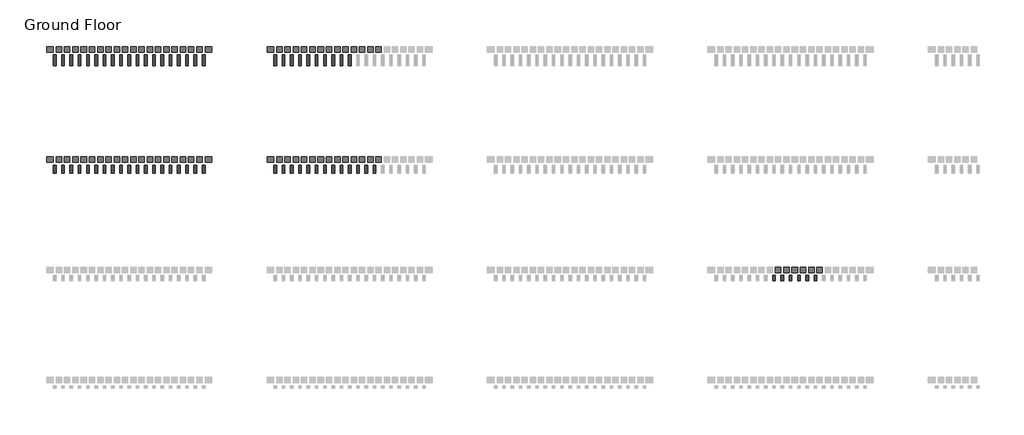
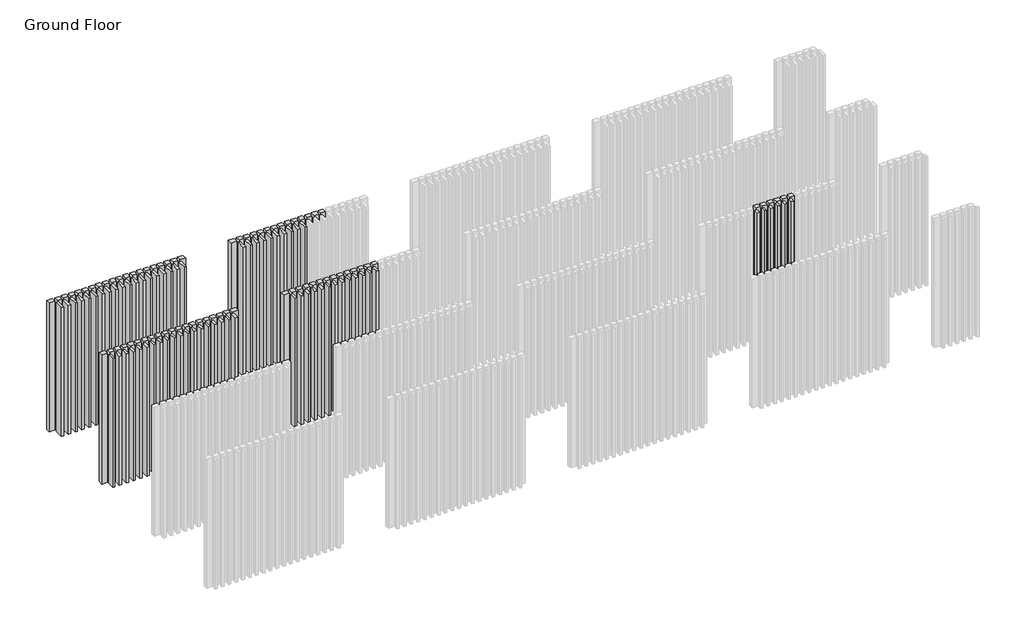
# One storey, part 15 of 350: 74 plates, 67 members.
"""IFC4 building model written with IfcOpenShell, lengths in millimetres."""

from ifc_helpers import new_model, si_unit, origin, place, context, project, spatial, transform, mapped, element, save
from components import rectangular_mullion_e9fc8109, rectangular_mullion_26362614, rectangular_mullion_afeb8ef8, empty_system_panel_empty_a8601f27, empty_system_panel_empty_23ba90fe, empty_system_panel_empty_02e968fa

model = new_model("IFC4")

# Units and contexts
model_context = context("Model", 3, world=origin())
ifc_project = project(units=[si_unit("LENGTHUNIT", "METRE", prefix="MILLI")], contexts=[model_context])

# Site, building, storey
site = spatial("IfcSite", under=ifc_project)
building = spatial("IfcBuilding", under=site)
storey = spatial("IfcBuildingStorey", under=building, Name="Ground Floor", Elevation=0.0)

# Members
placement = place(None, origin())
rectangular_mullion_shape = rectangular_mullion_e9fc8109(model_context)
element("IfcMember", 1, ObjectType="Rectangular Mullion : Batten_Aluminium_Modinex_AluBatten_50x100_SpottedGum", at=placement, inside=storey, context=model_context, shape_type="MappedRepresentation", body=[
    mapped(rectangular_mullion_shape, transform((15116.4361642, 22968.2978302, 0.0), x_axis=(1.0, 0.0, 0.0), y_axis=(0.0, -1.0, 0.0), z_axis=(0.0, 0.0, -1.0))),
])
element("IfcMember", 2, ObjectType="Rectangular Mullion : Batten_Aluminium_Modinex_AluBatten_50x100_SpottedGum", at=placement, inside=storey, context=model_context, shape_type="MappedRepresentation", body=[
    mapped(rectangular_mullion_shape, transform((15266.4361642, 22968.2978302, 0.0), x_axis=(1.0, 0.0, 0.0), y_axis=(0.0, -1.0, 0.0), z_axis=(0.0, 0.0, -1.0))),
])
element("IfcMember", 3, ObjectType="Rectangular Mullion : Batten_Aluminium_Modinex_AluBatten_50x100_SpottedGum", at=placement, inside=storey, context=model_context, shape_type="MappedRepresentation", body=[
    mapped(rectangular_mullion_shape, transform((15416.4361642, 22968.2978302, 0.0), x_axis=(1.0, 0.0, 0.0), y_axis=(0.0, -1.0, 0.0), z_axis=(0.0, 0.0, -1.0))),
])
element("IfcMember", 4, ObjectType="Rectangular Mullion : Batten_Aluminium_Modinex_AluBatten_50x100_SpottedGum", at=placement, inside=storey, context=model_context, shape_type="MappedRepresentation", body=[
    mapped(rectangular_mullion_shape, transform((15566.4361642, 22968.2978302, 0.0), x_axis=(1.0, 0.0, 0.0), y_axis=(0.0, -1.0, 0.0), z_axis=(0.0, 0.0, -1.0))),
])
element("IfcMember", 5, ObjectType="Rectangular Mullion : Batten_Aluminium_Modinex_AluBatten_50x100_SpottedGum", at=placement, inside=storey, context=model_context, shape_type="MappedRepresentation", body=[
    mapped(rectangular_mullion_shape, transform((15716.4361642, 22968.2978302, 0.0), x_axis=(1.0, 0.0, 0.0), y_axis=(0.0, -1.0, 0.0), z_axis=(0.0, 0.0, -1.0))),
])
element("IfcMember", 6, ObjectType="Rectangular Mullion : Batten_Aluminium_Modinex_AluBatten_50x100_SpottedGum", at=placement, inside=storey, context=model_context, shape_type="MappedRepresentation", body=[
    mapped(rectangular_mullion_shape, transform((15866.4361642, 22968.2978302, 0.0), x_axis=(1.0, 0.0, 0.0), y_axis=(0.0, -1.0, 0.0), z_axis=(0.0, 0.0, -1.0))),
])
rectangular_mullion_2_shape = rectangular_mullion_26362614(model_context)
element("IfcMember", 7, ObjectType="Rectangular Mullion : Batten_Aluminium_Modinex_AluBatten_50x150_AfricanEbony", at=placement, inside=storey, context=model_context, shape_type="MappedRepresentation", body=[
    mapped(rectangular_mullion_2_shape, transform((2066.4361642, 24968.2978302, 0.0), x_axis=(1.0, 0.0, 0.0), y_axis=(0.0, -1.0, 0.0), z_axis=(0.0, 0.0, -1.0))),
])
element("IfcMember", 8, ObjectType="Rectangular Mullion : Batten_Aluminium_Modinex_AluBatten_50x150_AfricanEbony", at=placement, inside=storey, context=model_context, shape_type="MappedRepresentation", body=[
    mapped(rectangular_mullion_2_shape, transform((2216.4361642, 24968.2978302, 0.0), x_axis=(1.0, 0.0, 0.0), y_axis=(0.0, -1.0, 0.0), z_axis=(0.0, 0.0, -1.0))),
])
element("IfcMember", 9, ObjectType="Rectangular Mullion : Batten_Aluminium_Modinex_AluBatten_50x150_AfricanEbony", at=placement, inside=storey, context=model_context, shape_type="MappedRepresentation", body=[
    mapped(rectangular_mullion_2_shape, transform((2366.4361642, 24968.2978302, 0.0), x_axis=(1.0, 0.0, 0.0), y_axis=(0.0, -1.0, 0.0), z_axis=(0.0, 0.0, -1.0))),
])
element("IfcMember", 10, ObjectType="Rectangular Mullion : Batten_Aluminium_Modinex_AluBatten_50x150_AfricanEbony", at=placement, inside=storey, context=model_context, shape_type="MappedRepresentation", body=[
    mapped(rectangular_mullion_2_shape, transform((2516.4361642, 24968.2978302, 0.0), x_axis=(1.0, 0.0, 0.0), y_axis=(0.0, -1.0, 0.0), z_axis=(0.0, 0.0, -1.0))),
])
element("IfcMember", 11, ObjectType="Rectangular Mullion : Batten_Aluminium_Modinex_AluBatten_50x150_AfricanEbony", at=placement, inside=storey, context=model_context, shape_type="MappedRepresentation", body=[
    mapped(rectangular_mullion_2_shape, transform((2666.4361642, 24968.2978302, 0.0), x_axis=(1.0, 0.0, 0.0), y_axis=(0.0, -1.0, 0.0), z_axis=(0.0, 0.0, -1.0))),
])
element("IfcMember", 12, ObjectType="Rectangular Mullion : Batten_Aluminium_Modinex_AluBatten_50x150_AfricanEbony", at=placement, inside=storey, context=model_context, shape_type="MappedRepresentation", body=[
    mapped(rectangular_mullion_2_shape, transform((2816.4361642, 24968.2978302, 0.0), x_axis=(1.0, 0.0, 0.0), y_axis=(0.0, -1.0, 0.0), z_axis=(0.0, 0.0, -1.0))),
])
element("IfcMember", 13, ObjectType="Rectangular Mullion : Batten_Aluminium_Modinex_AluBatten_50x150_AfricanEbony", at=placement, inside=storey, context=model_context, shape_type="MappedRepresentation", body=[
    mapped(rectangular_mullion_2_shape, transform((2966.4361642, 24968.2978302, 0.0), x_axis=(1.0, 0.0, 0.0), y_axis=(0.0, -1.0, 0.0), z_axis=(0.0, 0.0, -1.0))),
])
element("IfcMember", 14, ObjectType="Rectangular Mullion : Batten_Aluminium_Modinex_AluBatten_50x150_AfricanEbony", at=placement, inside=storey, context=model_context, shape_type="MappedRepresentation", body=[
    mapped(rectangular_mullion_2_shape, transform((3116.4361642, 24968.2978302, 0.0), x_axis=(1.0, 0.0, 0.0), y_axis=(0.0, -1.0, 0.0), z_axis=(0.0, 0.0, -1.0))),
])
element("IfcMember", 15, ObjectType="Rectangular Mullion : Batten_Aluminium_Modinex_AluBatten_50x150_AfricanEbony", at=placement, inside=storey, context=model_context, shape_type="MappedRepresentation", body=[
    mapped(rectangular_mullion_2_shape, transform((3266.4361642, 24968.2978302, 0.0), x_axis=(1.0, 0.0, 0.0), y_axis=(0.0, -1.0, 0.0), z_axis=(0.0, 0.0, -1.0))),
])
element("IfcMember", 16, ObjectType="Rectangular Mullion : Batten_Aluminium_Modinex_AluBatten_50x150_AfricanEbony", at=placement, inside=storey, context=model_context, shape_type="MappedRepresentation", body=[
    mapped(rectangular_mullion_2_shape, transform((3416.4361642, 24968.2978302, 0.0), x_axis=(1.0, 0.0, 0.0), y_axis=(0.0, -1.0, 0.0), z_axis=(0.0, 0.0, -1.0))),
])
element("IfcMember", 17, ObjectType="Rectangular Mullion : Batten_Aluminium_Modinex_AluBatten_50x150_AfricanEbony", at=placement, inside=storey, context=model_context, shape_type="MappedRepresentation", body=[
    mapped(rectangular_mullion_2_shape, transform((3566.4361642, 24968.2978302, 0.0), x_axis=(1.0, 0.0, 0.0), y_axis=(0.0, -1.0, 0.0), z_axis=(0.0, 0.0, -1.0))),
])
element("IfcMember", 18, ObjectType="Rectangular Mullion : Batten_Aluminium_Modinex_AluBatten_50x150_AfricanEbony", at=placement, inside=storey, context=model_context, shape_type="MappedRepresentation", body=[
    mapped(rectangular_mullion_2_shape, transform((3716.4361642, 24968.2978302, 0.0), x_axis=(1.0, 0.0, 0.0), y_axis=(0.0, -1.0, 0.0), z_axis=(0.0, 0.0, -1.0))),
])
element("IfcMember", 19, ObjectType="Rectangular Mullion : Batten_Aluminium_Modinex_AluBatten_50x150_AfricanEbony", at=placement, inside=storey, context=model_context, shape_type="MappedRepresentation", body=[
    mapped(rectangular_mullion_2_shape, transform((3866.4361642, 24968.2978302, 0.0), x_axis=(1.0, 0.0, 0.0), y_axis=(0.0, -1.0, 0.0), z_axis=(0.0, 0.0, -1.0))),
])
element("IfcMember", 20, ObjectType="Rectangular Mullion : Batten_Aluminium_Modinex_AluBatten_50x150_AfricanEbony", at=placement, inside=storey, context=model_context, shape_type="MappedRepresentation", body=[
    mapped(rectangular_mullion_2_shape, transform((4016.4361642, 24968.2978302, 0.0), x_axis=(1.0, 0.0, 0.0), y_axis=(0.0, -1.0, 0.0), z_axis=(0.0, 0.0, -1.0))),
])
element("IfcMember", 21, ObjectType="Rectangular Mullion : Batten_Aluminium_Modinex_AluBatten_50x150_AfricanEbony", at=placement, inside=storey, context=model_context, shape_type="MappedRepresentation", body=[
    mapped(rectangular_mullion_2_shape, transform((4166.4361642, 24968.2978302, 0.0), x_axis=(1.0, 0.0, 0.0), y_axis=(0.0, -1.0, 0.0), z_axis=(0.0, 0.0, -1.0))),
])
element("IfcMember", 22, ObjectType="Rectangular Mullion : Batten_Aluminium_Modinex_AluBatten_50x150_AfricanEbony", at=placement, inside=storey, context=model_context, shape_type="MappedRepresentation", body=[
    mapped(rectangular_mullion_2_shape, transform((4316.4361642, 24968.2978302, 0.0), x_axis=(1.0, 0.0, 0.0), y_axis=(0.0, -1.0, 0.0), z_axis=(0.0, 0.0, -1.0))),
])
element("IfcMember", 23, ObjectType="Rectangular Mullion : Batten_Aluminium_Modinex_AluBatten_50x150_AfricanEbony", at=placement, inside=storey, context=model_context, shape_type="MappedRepresentation", body=[
    mapped(rectangular_mullion_2_shape, transform((4466.4361642, 24968.2978302, 0.0), x_axis=(1.0, 0.0, 0.0), y_axis=(0.0, -1.0, 0.0), z_axis=(0.0, 0.0, -1.0))),
])
element("IfcMember", 24, ObjectType="Rectangular Mullion : Batten_Aluminium_Modinex_AluBatten_50x150_AfricanEbony", at=placement, inside=storey, context=model_context, shape_type="MappedRepresentation", body=[
    mapped(rectangular_mullion_2_shape, transform((4616.4361642, 24968.2978302, 0.0), x_axis=(1.0, 0.0, 0.0), y_axis=(0.0, -1.0, 0.0), z_axis=(0.0, 0.0, -1.0))),
])
element("IfcMember", 25, ObjectType="Rectangular Mullion : Batten_Aluminium_Modinex_AluBatten_50x150_AfricanEbony", at=placement, inside=storey, context=model_context, shape_type="MappedRepresentation", body=[
    mapped(rectangular_mullion_2_shape, transform((4766.4361642, 24968.2978302, 0.0), x_axis=(1.0, 0.0, 0.0), y_axis=(0.0, -1.0, 0.0), z_axis=(0.0, 0.0, -1.0))),
])
element("IfcMember", 26, ObjectType="Rectangular Mullion : Batten_Aluminium_Modinex_AluBatten_50x150_Cedar", at=placement, inside=storey, context=model_context, shape_type="MappedRepresentation", body=[
    mapped(rectangular_mullion_2_shape, transform((6066.4361642, 24968.2978302, 0.0), x_axis=(1.0, 0.0, 0.0), y_axis=(0.0, -1.0, 0.0), z_axis=(0.0, 0.0, -1.0))),
])
element("IfcMember", 27, ObjectType="Rectangular Mullion : Batten_Aluminium_Modinex_AluBatten_50x150_Cedar", at=placement, inside=storey, context=model_context, shape_type="MappedRepresentation", body=[
    mapped(rectangular_mullion_2_shape, transform((6216.4361642, 24968.2978302, 0.0), x_axis=(1.0, 0.0, 0.0), y_axis=(0.0, -1.0, 0.0), z_axis=(0.0, 0.0, -1.0))),
])
element("IfcMember", 28, ObjectType="Rectangular Mullion : Batten_Aluminium_Modinex_AluBatten_50x150_Cedar", at=placement, inside=storey, context=model_context, shape_type="MappedRepresentation", body=[
    mapped(rectangular_mullion_2_shape, transform((6366.4361642, 24968.2978302, 0.0), x_axis=(1.0, 0.0, 0.0), y_axis=(0.0, -1.0, 0.0), z_axis=(0.0, 0.0, -1.0))),
])
element("IfcMember", 29, ObjectType="Rectangular Mullion : Batten_Aluminium_Modinex_AluBatten_50x150_Cedar", at=placement, inside=storey, context=model_context, shape_type="MappedRepresentation", body=[
    mapped(rectangular_mullion_2_shape, transform((6516.4361642, 24968.2978302, 0.0), x_axis=(1.0, 0.0, 0.0), y_axis=(0.0, -1.0, 0.0), z_axis=(0.0, 0.0, -1.0))),
])
element("IfcMember", 30, ObjectType="Rectangular Mullion : Batten_Aluminium_Modinex_AluBatten_50x150_Cedar", at=placement, inside=storey, context=model_context, shape_type="MappedRepresentation", body=[
    mapped(rectangular_mullion_2_shape, transform((6666.4361642, 24968.2978302, 0.0), x_axis=(1.0, 0.0, 0.0), y_axis=(0.0, -1.0, 0.0), z_axis=(0.0, 0.0, -1.0))),
])
element("IfcMember", 31, ObjectType="Rectangular Mullion : Batten_Aluminium_Modinex_AluBatten_50x150_Cedar", at=placement, inside=storey, context=model_context, shape_type="MappedRepresentation", body=[
    mapped(rectangular_mullion_2_shape, transform((6816.4361642, 24968.2978302, 0.0), x_axis=(1.0, 0.0, 0.0), y_axis=(0.0, -1.0, 0.0), z_axis=(0.0, 0.0, -1.0))),
])
element("IfcMember", 32, ObjectType="Rectangular Mullion : Batten_Aluminium_Modinex_AluBatten_50x150_Cedar", at=placement, inside=storey, context=model_context, shape_type="MappedRepresentation", body=[
    mapped(rectangular_mullion_2_shape, transform((6966.4361642, 24968.2978302, 0.0), x_axis=(1.0, 0.0, 0.0), y_axis=(0.0, -1.0, 0.0), z_axis=(0.0, 0.0, -1.0))),
])
element("IfcMember", 33, ObjectType="Rectangular Mullion : Batten_Aluminium_Modinex_AluBatten_50x150_Cedar", at=placement, inside=storey, context=model_context, shape_type="MappedRepresentation", body=[
    mapped(rectangular_mullion_2_shape, transform((7116.4361642, 24968.2978302, 0.0), x_axis=(1.0, 0.0, 0.0), y_axis=(0.0, -1.0, 0.0), z_axis=(0.0, 0.0, -1.0))),
])
element("IfcMember", 34, ObjectType="Rectangular Mullion : Batten_Aluminium_Modinex_AluBatten_50x150_Cedar", at=placement, inside=storey, context=model_context, shape_type="MappedRepresentation", body=[
    mapped(rectangular_mullion_2_shape, transform((7266.4361642, 24968.2978302, 0.0), x_axis=(1.0, 0.0, 0.0), y_axis=(0.0, -1.0, 0.0), z_axis=(0.0, 0.0, -1.0))),
])
element("IfcMember", 35, ObjectType="Rectangular Mullion : Batten_Aluminium_Modinex_AluBatten_50x150_Cedar", at=placement, inside=storey, context=model_context, shape_type="MappedRepresentation", body=[
    mapped(rectangular_mullion_2_shape, transform((7416.4361642, 24968.2978302, 0.0), x_axis=(1.0, 0.0, 0.0), y_axis=(0.0, -1.0, 0.0), z_axis=(0.0, 0.0, -1.0))),
])
element("IfcMember", 36, ObjectType="Rectangular Mullion : Batten_Aluminium_Modinex_AluBatten_50x150_Cedar", at=placement, inside=storey, context=model_context, shape_type="MappedRepresentation", body=[
    mapped(rectangular_mullion_2_shape, transform((7566.4361642, 24968.2978302, 0.0), x_axis=(1.0, 0.0, 0.0), y_axis=(0.0, -1.0, 0.0), z_axis=(0.0, 0.0, -1.0))),
])
element("IfcMember", 37, ObjectType="Rectangular Mullion : Batten_Aluminium_Modinex_AluBatten_50x150_Cedar", at=placement, inside=storey, context=model_context, shape_type="MappedRepresentation", body=[
    mapped(rectangular_mullion_2_shape, transform((7716.4361642, 24968.2978302, 0.0), x_axis=(1.0, 0.0, 0.0), y_axis=(0.0, -1.0, 0.0), z_axis=(0.0, 0.0, -1.0))),
])
element("IfcMember", 38, ObjectType="Rectangular Mullion : Batten_Aluminium_Modinex_AluBatten_50x150_Cedar", at=placement, inside=storey, context=model_context, shape_type="MappedRepresentation", body=[
    mapped(rectangular_mullion_2_shape, transform((7866.4361642, 24968.2978302, 0.0), x_axis=(1.0, 0.0, 0.0), y_axis=(0.0, -1.0, 0.0), z_axis=(0.0, 0.0, -1.0))),
])
rectangular_mullion_3_shape = rectangular_mullion_afeb8ef8(model_context)
element("IfcMember", 39, ObjectType="Rectangular Mullion : Batten_Aluminium_Modinex_AluBatten_50x200_AfricanEbony", at=placement, inside=storey, context=model_context, shape_type="MappedRepresentation", body=[
    mapped(rectangular_mullion_3_shape, transform((2066.4361642, 26968.2978302, 0.0), x_axis=(1.0, 0.0, 0.0), y_axis=(0.0, -1.0, 0.0), z_axis=(0.0, 0.0, -1.0))),
])
element("IfcMember", 40, ObjectType="Rectangular Mullion : Batten_Aluminium_Modinex_AluBatten_50x200_AfricanEbony", at=placement, inside=storey, context=model_context, shape_type="MappedRepresentation", body=[
    mapped(rectangular_mullion_3_shape, transform((2216.4361642, 26968.2978302, 0.0), x_axis=(1.0, 0.0, 0.0), y_axis=(0.0, -1.0, 0.0), z_axis=(0.0, 0.0, -1.0))),
])
element("IfcMember", 41, ObjectType="Rectangular Mullion : Batten_Aluminium_Modinex_AluBatten_50x200_AfricanEbony", at=placement, inside=storey, context=model_context, shape_type="MappedRepresentation", body=[
    mapped(rectangular_mullion_3_shape, transform((2366.4361642, 26968.2978302, 0.0), x_axis=(1.0, 0.0, 0.0), y_axis=(0.0, -1.0, 0.0), z_axis=(0.0, 0.0, -1.0))),
])
element("IfcMember", 42, ObjectType="Rectangular Mullion : Batten_Aluminium_Modinex_AluBatten_50x200_AfricanEbony", at=placement, inside=storey, context=model_context, shape_type="MappedRepresentation", body=[
    mapped(rectangular_mullion_3_shape, transform((2516.4361642, 26968.2978302, 0.0), x_axis=(1.0, 0.0, 0.0), y_axis=(0.0, -1.0, 0.0), z_axis=(0.0, 0.0, -1.0))),
])
element("IfcMember", 43, ObjectType="Rectangular Mullion : Batten_Aluminium_Modinex_AluBatten_50x200_AfricanEbony", at=placement, inside=storey, context=model_context, shape_type="MappedRepresentation", body=[
    mapped(rectangular_mullion_3_shape, transform((2666.4361642, 26968.2978302, 0.0), x_axis=(1.0, 0.0, 0.0), y_axis=(0.0, -1.0, 0.0), z_axis=(0.0, 0.0, -1.0))),
])
element("IfcMember", 44, ObjectType="Rectangular Mullion : Batten_Aluminium_Modinex_AluBatten_50x200_AfricanEbony", at=placement, inside=storey, context=model_context, shape_type="MappedRepresentation", body=[
    mapped(rectangular_mullion_3_shape, transform((2816.4361642, 26968.2978302, 0.0), x_axis=(1.0, 0.0, 0.0), y_axis=(0.0, -1.0, 0.0), z_axis=(0.0, 0.0, -1.0))),
])
element("IfcMember", 45, ObjectType="Rectangular Mullion : Batten_Aluminium_Modinex_AluBatten_50x200_AfricanEbony", at=placement, inside=storey, context=model_context, shape_type="MappedRepresentation", body=[
    mapped(rectangular_mullion_3_shape, transform((2966.4361642, 26968.2978302, 0.0), x_axis=(1.0, 0.0, 0.0), y_axis=(0.0, -1.0, 0.0), z_axis=(0.0, 0.0, -1.0))),
])
element("IfcMember", 46, ObjectType="Rectangular Mullion : Batten_Aluminium_Modinex_AluBatten_50x200_AfricanEbony", at=placement, inside=storey, context=model_context, shape_type="MappedRepresentation", body=[
    mapped(rectangular_mullion_3_shape, transform((3116.4361642, 26968.2978302, 0.0), x_axis=(1.0, 0.0, 0.0), y_axis=(0.0, -1.0, 0.0), z_axis=(0.0, 0.0, -1.0))),
])
element("IfcMember", 47, ObjectType="Rectangular Mullion : Batten_Aluminium_Modinex_AluBatten_50x200_AfricanEbony", at=placement, inside=storey, context=model_context, shape_type="MappedRepresentation", body=[
    mapped(rectangular_mullion_3_shape, transform((3266.4361642, 26968.2978302, 0.0), x_axis=(1.0, 0.0, 0.0), y_axis=(0.0, -1.0, 0.0), z_axis=(0.0, 0.0, -1.0))),
])
element("IfcMember", 48, ObjectType="Rectangular Mullion : Batten_Aluminium_Modinex_AluBatten_50x200_AfricanEbony", at=placement, inside=storey, context=model_context, shape_type="MappedRepresentation", body=[
    mapped(rectangular_mullion_3_shape, transform((3416.4361642, 26968.2978302, 0.0), x_axis=(1.0, 0.0, 0.0), y_axis=(0.0, -1.0, 0.0), z_axis=(0.0, 0.0, -1.0))),
])
element("IfcMember", 49, ObjectType="Rectangular Mullion : Batten_Aluminium_Modinex_AluBatten_50x200_AfricanEbony", at=placement, inside=storey, context=model_context, shape_type="MappedRepresentation", body=[
    mapped(rectangular_mullion_3_shape, transform((3566.4361642, 26968.2978302, 0.0), x_axis=(1.0, 0.0, 0.0), y_axis=(0.0, -1.0, 0.0), z_axis=(0.0, 0.0, -1.0))),
])
element("IfcMember", 50, ObjectType="Rectangular Mullion : Batten_Aluminium_Modinex_AluBatten_50x200_AfricanEbony", at=placement, inside=storey, context=model_context, shape_type="MappedRepresentation", body=[
    mapped(rectangular_mullion_3_shape, transform((3716.4361642, 26968.2978302, 0.0), x_axis=(1.0, 0.0, 0.0), y_axis=(0.0, -1.0, 0.0), z_axis=(0.0, 0.0, -1.0))),
])
element("IfcMember", 51, ObjectType="Rectangular Mullion : Batten_Aluminium_Modinex_AluBatten_50x200_AfricanEbony", at=placement, inside=storey, context=model_context, shape_type="MappedRepresentation", body=[
    mapped(rectangular_mullion_3_shape, transform((3866.4361642, 26968.2978302, 0.0), x_axis=(1.0, 0.0, 0.0), y_axis=(0.0, -1.0, 0.0), z_axis=(0.0, 0.0, -1.0))),
])
element("IfcMember", 52, ObjectType="Rectangular Mullion : Batten_Aluminium_Modinex_AluBatten_50x200_AfricanEbony", at=placement, inside=storey, context=model_context, shape_type="MappedRepresentation", body=[
    mapped(rectangular_mullion_3_shape, transform((4016.4361642, 26968.2978302, 0.0), x_axis=(1.0, 0.0, 0.0), y_axis=(0.0, -1.0, 0.0), z_axis=(0.0, 0.0, -1.0))),
])
element("IfcMember", 53, ObjectType="Rectangular Mullion : Batten_Aluminium_Modinex_AluBatten_50x200_AfricanEbony", at=placement, inside=storey, context=model_context, shape_type="MappedRepresentation", body=[
    mapped(rectangular_mullion_3_shape, transform((4166.4361642, 26968.2978302, 0.0), x_axis=(1.0, 0.0, 0.0), y_axis=(0.0, -1.0, 0.0), z_axis=(0.0, 0.0, -1.0))),
])
element("IfcMember", 54, ObjectType="Rectangular Mullion : Batten_Aluminium_Modinex_AluBatten_50x200_AfricanEbony", at=placement, inside=storey, context=model_context, shape_type="MappedRepresentation", body=[
    mapped(rectangular_mullion_3_shape, transform((4316.4361642, 26968.2978302, 0.0), x_axis=(1.0, 0.0, 0.0), y_axis=(0.0, -1.0, 0.0), z_axis=(0.0, 0.0, -1.0))),
])
element("IfcMember", 55, ObjectType="Rectangular Mullion : Batten_Aluminium_Modinex_AluBatten_50x200_AfricanEbony", at=placement, inside=storey, context=model_context, shape_type="MappedRepresentation", body=[
    mapped(rectangular_mullion_3_shape, transform((4466.4361642, 26968.2978302, 0.0), x_axis=(1.0, 0.0, 0.0), y_axis=(0.0, -1.0, 0.0), z_axis=(0.0, 0.0, -1.0))),
])
element("IfcMember", 56, ObjectType="Rectangular Mullion : Batten_Aluminium_Modinex_AluBatten_50x200_AfricanEbony", at=placement, inside=storey, context=model_context, shape_type="MappedRepresentation", body=[
    mapped(rectangular_mullion_3_shape, transform((4616.4361642, 26968.2978302, 0.0), x_axis=(1.0, 0.0, 0.0), y_axis=(0.0, -1.0, 0.0), z_axis=(0.0, 0.0, -1.0))),
])
element("IfcMember", 57, ObjectType="Rectangular Mullion : Batten_Aluminium_Modinex_AluBatten_50x200_AfricanEbony", at=placement, inside=storey, context=model_context, shape_type="MappedRepresentation", body=[
    mapped(rectangular_mullion_3_shape, transform((4766.4361642, 26968.2978302, 0.0), x_axis=(1.0, 0.0, 0.0), y_axis=(0.0, -1.0, 0.0), z_axis=(0.0, 0.0, -1.0))),
])
element("IfcMember", 58, ObjectType="Rectangular Mullion : Batten_Aluminium_Modinex_AluBatten_50x200_Cedar", at=placement, inside=storey, context=model_context, shape_type="MappedRepresentation", body=[
    mapped(rectangular_mullion_3_shape, transform((6066.4361642, 26968.2978302, 0.0), x_axis=(1.0, 0.0, 0.0), y_axis=(0.0, -1.0, 0.0), z_axis=(0.0, 0.0, -1.0))),
])
element("IfcMember", 59, ObjectType="Rectangular Mullion : Batten_Aluminium_Modinex_AluBatten_50x200_Cedar", at=placement, inside=storey, context=model_context, shape_type="MappedRepresentation", body=[
    mapped(rectangular_mullion_3_shape, transform((6216.4361642, 26968.2978302, 0.0), x_axis=(1.0, 0.0, 0.0), y_axis=(0.0, -1.0, 0.0), z_axis=(0.0, 0.0, -1.0))),
])
element("IfcMember", 60, ObjectType="Rectangular Mullion : Batten_Aluminium_Modinex_AluBatten_50x200_Cedar", at=placement, inside=storey, context=model_context, shape_type="MappedRepresentation", body=[
    mapped(rectangular_mullion_3_shape, transform((6366.4361642, 26968.2978302, 0.0), x_axis=(1.0, 0.0, 0.0), y_axis=(0.0, -1.0, 0.0), z_axis=(0.0, 0.0, -1.0))),
])
element("IfcMember", 61, ObjectType="Rectangular Mullion : Batten_Aluminium_Modinex_AluBatten_50x200_Cedar", at=placement, inside=storey, context=model_context, shape_type="MappedRepresentation", body=[
    mapped(rectangular_mullion_3_shape, transform((6516.4361642, 26968.2978302, 0.0), x_axis=(1.0, 0.0, 0.0), y_axis=(0.0, -1.0, 0.0), z_axis=(0.0, 0.0, -1.0))),
])
element("IfcMember", 62, ObjectType="Rectangular Mullion : Batten_Aluminium_Modinex_AluBatten_50x200_Cedar", at=placement, inside=storey, context=model_context, shape_type="MappedRepresentation", body=[
    mapped(rectangular_mullion_3_shape, transform((6666.4361642, 26968.2978302, 0.0), x_axis=(1.0, 0.0, 0.0), y_axis=(0.0, -1.0, 0.0), z_axis=(0.0, 0.0, -1.0))),
])
element("IfcMember", 63, ObjectType="Rectangular Mullion : Batten_Aluminium_Modinex_AluBatten_50x200_Cedar", at=placement, inside=storey, context=model_context, shape_type="MappedRepresentation", body=[
    mapped(rectangular_mullion_3_shape, transform((6816.4361642, 26968.2978302, 0.0), x_axis=(1.0, 0.0, 0.0), y_axis=(0.0, -1.0, 0.0), z_axis=(0.0, 0.0, -1.0))),
])
element("IfcMember", 64, ObjectType="Rectangular Mullion : Batten_Aluminium_Modinex_AluBatten_50x200_Cedar", at=placement, inside=storey, context=model_context, shape_type="MappedRepresentation", body=[
    mapped(rectangular_mullion_3_shape, transform((6966.4361642, 26968.2978302, 0.0), x_axis=(1.0, 0.0, 0.0), y_axis=(0.0, -1.0, 0.0), z_axis=(0.0, 0.0, -1.0))),
])
element("IfcMember", 65, ObjectType="Rectangular Mullion : Batten_Aluminium_Modinex_AluBatten_50x200_Cedar", at=placement, inside=storey, context=model_context, shape_type="MappedRepresentation", body=[
    mapped(rectangular_mullion_3_shape, transform((7116.4361642, 26968.2978302, 0.0), x_axis=(1.0, 0.0, 0.0), y_axis=(0.0, -1.0, 0.0), z_axis=(0.0, 0.0, -1.0))),
])
element("IfcMember", 66, ObjectType="Rectangular Mullion : Batten_Aluminium_Modinex_AluBatten_50x200_Cedar", at=placement, inside=storey, context=model_context, shape_type="MappedRepresentation", body=[
    mapped(rectangular_mullion_3_shape, transform((7266.4361642, 26968.2978302, 0.0), x_axis=(1.0, 0.0, 0.0), y_axis=(0.0, -1.0, 0.0), z_axis=(0.0, 0.0, -1.0))),
])
element("IfcMember", 67, ObjectType="Rectangular Mullion : Batten_Aluminium_Modinex_AluBatten_50x200_Cedar", at=placement, inside=storey, context=model_context, shape_type="MappedRepresentation", body=[
    mapped(rectangular_mullion_3_shape, transform((7416.4361642, 26968.2978302, 0.0), x_axis=(1.0, 0.0, 0.0), y_axis=(0.0, -1.0, 0.0), z_axis=(0.0, 0.0, -1.0))),
])

# Plates
empty_system_panel_empty_shape = empty_system_panel_empty_a8601f27(model_context)
element("IfcPlate", 68, ObjectType="Empty System Panel : Empty", at=placement, inside=storey, context=model_context, shape_type="MappedRepresentation", body=[
    mapped(empty_system_panel_empty_shape, transform((1978.9361641, 24968.2978302, 0.0), x_axis=(1.0, 0.0, 0.0), y_axis=(0.0, 1.0, 0.0), z_axis=(0.0, 0.0, 1.0))),
])
element("IfcPlate", 69, ObjectType="Empty System Panel : Empty", at=placement, inside=storey, context=model_context, shape_type="MappedRepresentation", body=[
    mapped(empty_system_panel_empty_shape, transform((5978.9361641, 24968.2978302, 0.0), x_axis=(1.0, 0.0, 0.0), y_axis=(0.0, 1.0, 0.0), z_axis=(0.0, 0.0, 1.0))),
])
element("IfcPlate", 70, ObjectType="Empty System Panel : Empty", at=placement, inside=storey, context=model_context, shape_type="MappedRepresentation", body=[
    mapped(empty_system_panel_empty_shape, transform((1978.9361641, 26968.2978302, 0.0), x_axis=(1.0, 0.0, 0.0), y_axis=(0.0, 1.0, 0.0), z_axis=(0.0, 0.0, 1.0))),
])
element("IfcPlate", 71, ObjectType="Empty System Panel : Empty", at=placement, inside=storey, context=model_context, shape_type="MappedRepresentation", body=[
    mapped(empty_system_panel_empty_shape, transform((5978.9361641, 26968.2978302, 0.0), x_axis=(1.0, 0.0, 0.0), y_axis=(0.0, 1.0, 0.0), z_axis=(0.0, 0.0, 1.0))),
])
empty_system_panel_empty_2_shape = empty_system_panel_empty_23ba90fe(model_context)
element("IfcPlate", 72, ObjectType="Empty System Panel : Empty", at=placement, inside=storey, context=model_context, shape_type="MappedRepresentation", body=[
    mapped(empty_system_panel_empty_2_shape, transform((15191.4361642, 22968.2978302, 0.0), x_axis=(1.0, 0.0, 0.0), y_axis=(0.0, 1.0, 0.0), z_axis=(0.0, 0.0, 1.0))),
])
element("IfcPlate", 73, ObjectType="Empty System Panel : Empty", at=placement, inside=storey, context=model_context, shape_type="MappedRepresentation", body=[
    mapped(empty_system_panel_empty_2_shape, transform((15341.4361642, 22968.2978302, 0.0), x_axis=(1.0, 0.0, 0.0), y_axis=(0.0, 1.0, 0.0), z_axis=(0.0, 0.0, 1.0))),
])
element("IfcPlate", 74, ObjectType="Empty System Panel : Empty", at=placement, inside=storey, context=model_context, shape_type="MappedRepresentation", body=[
    mapped(empty_system_panel_empty_2_shape, transform((15491.4361642, 22968.2978302, 0.0), x_axis=(1.0, 0.0, 0.0), y_axis=(0.0, 1.0, 0.0), z_axis=(0.0, 0.0, 1.0))),
])
element("IfcPlate", 75, ObjectType="Empty System Panel : Empty", at=placement, inside=storey, context=model_context, shape_type="MappedRepresentation", body=[
    mapped(empty_system_panel_empty_2_shape, transform((15641.4361642, 22968.2978302, 0.0), x_axis=(1.0, 0.0, 0.0), y_axis=(0.0, 1.0, 0.0), z_axis=(0.0, 0.0, 1.0))),
])
element("IfcPlate", 76, ObjectType="Empty System Panel : Empty", at=placement, inside=storey, context=model_context, shape_type="MappedRepresentation", body=[
    mapped(empty_system_panel_empty_2_shape, transform((15791.4361642, 22968.2978302, 0.0), x_axis=(1.0, 0.0, 0.0), y_axis=(0.0, 1.0, 0.0), z_axis=(0.0, 0.0, 1.0))),
])
element("IfcPlate", 77, ObjectType="Empty System Panel : Empty", at=placement, inside=storey, context=model_context, shape_type="MappedRepresentation", body=[
    mapped(empty_system_panel_empty_2_shape, transform((15941.4361642, 22968.2978302, 0.0), x_axis=(1.0, 0.0, 0.0), y_axis=(0.0, 1.0, 0.0), z_axis=(0.0, 0.0, 1.0))),
])
element("IfcPlate", 78, ObjectType="Empty System Panel : Empty", at=placement, inside=storey, context=model_context, shape_type="MappedRepresentation", body=[
    mapped(empty_system_panel_empty_2_shape, transform((2141.4361642, 24968.2978302, 0.0), x_axis=(1.0, 0.0, 0.0), y_axis=(0.0, 1.0, 0.0), z_axis=(0.0, 0.0, 1.0))),
])
element("IfcPlate", 79, ObjectType="Empty System Panel : Empty", at=placement, inside=storey, context=model_context, shape_type="MappedRepresentation", body=[
    mapped(empty_system_panel_empty_2_shape, transform((2291.4361642, 24968.2978302, 0.0), x_axis=(1.0, 0.0, 0.0), y_axis=(0.0, 1.0, 0.0), z_axis=(0.0, 0.0, 1.0))),
])
element("IfcPlate", 80, ObjectType="Empty System Panel : Empty", at=placement, inside=storey, context=model_context, shape_type="MappedRepresentation", body=[
    mapped(empty_system_panel_empty_2_shape, transform((2441.4361642, 24968.2978302, 0.0), x_axis=(1.0, 0.0, 0.0), y_axis=(0.0, 1.0, 0.0), z_axis=(0.0, 0.0, 1.0))),
])
element("IfcPlate", 81, ObjectType="Empty System Panel : Empty", at=placement, inside=storey, context=model_context, shape_type="MappedRepresentation", body=[
    mapped(empty_system_panel_empty_2_shape, transform((2591.4361642, 24968.2978302, 0.0), x_axis=(1.0, 0.0, 0.0), y_axis=(0.0, 1.0, 0.0), z_axis=(0.0, 0.0, 1.0))),
])
element("IfcPlate", 82, ObjectType="Empty System Panel : Empty", at=placement, inside=storey, context=model_context, shape_type="MappedRepresentation", body=[
    mapped(empty_system_panel_empty_2_shape, transform((2741.4361642, 24968.2978302, 0.0), x_axis=(1.0, 0.0, 0.0), y_axis=(0.0, 1.0, 0.0), z_axis=(0.0, 0.0, 1.0))),
])
element("IfcPlate", 83, ObjectType="Empty System Panel : Empty", at=placement, inside=storey, context=model_context, shape_type="MappedRepresentation", body=[
    mapped(empty_system_panel_empty_2_shape, transform((2891.4361642, 24968.2978302, 0.0), x_axis=(1.0, 0.0, 0.0), y_axis=(0.0, 1.0, 0.0), z_axis=(0.0, 0.0, 1.0))),
])
element("IfcPlate", 84, ObjectType="Empty System Panel : Empty", at=placement, inside=storey, context=model_context, shape_type="MappedRepresentation", body=[
    mapped(empty_system_panel_empty_2_shape, transform((3041.4361642, 24968.2978302, 0.0), x_axis=(1.0, 0.0, 0.0), y_axis=(0.0, 1.0, 0.0), z_axis=(0.0, 0.0, 1.0))),
])
element("IfcPlate", 85, ObjectType="Empty System Panel : Empty", at=placement, inside=storey, context=model_context, shape_type="MappedRepresentation", body=[
    mapped(empty_system_panel_empty_2_shape, transform((3191.4361642, 24968.2978302, 0.0), x_axis=(1.0, 0.0, 0.0), y_axis=(0.0, 1.0, 0.0), z_axis=(0.0, 0.0, 1.0))),
])
element("IfcPlate", 86, ObjectType="Empty System Panel : Empty", at=placement, inside=storey, context=model_context, shape_type="MappedRepresentation", body=[
    mapped(empty_system_panel_empty_2_shape, transform((3341.4361642, 24968.2978302, 0.0), x_axis=(1.0, 0.0, 0.0), y_axis=(0.0, 1.0, 0.0), z_axis=(0.0, 0.0, 1.0))),
])
element("IfcPlate", 87, ObjectType="Empty System Panel : Empty", at=placement, inside=storey, context=model_context, shape_type="MappedRepresentation", body=[
    mapped(empty_system_panel_empty_2_shape, transform((3491.4361642, 24968.2978302, 0.0), x_axis=(1.0, 0.0, 0.0), y_axis=(0.0, 1.0, 0.0), z_axis=(0.0, 0.0, 1.0))),
])
element("IfcPlate", 88, ObjectType="Empty System Panel : Empty", at=placement, inside=storey, context=model_context, shape_type="MappedRepresentation", body=[
    mapped(empty_system_panel_empty_2_shape, transform((3641.4361642, 24968.2978302, 0.0), x_axis=(1.0, 0.0, 0.0), y_axis=(0.0, 1.0, 0.0), z_axis=(0.0, 0.0, 1.0))),
])
element("IfcPlate", 89, ObjectType="Empty System Panel : Empty", at=placement, inside=storey, context=model_context, shape_type="MappedRepresentation", body=[
    mapped(empty_system_panel_empty_2_shape, transform((3791.4361642, 24968.2978302, 0.0), x_axis=(1.0, 0.0, 0.0), y_axis=(0.0, 1.0, 0.0), z_axis=(0.0, 0.0, 1.0))),
])
element("IfcPlate", 90, ObjectType="Empty System Panel : Empty", at=placement, inside=storey, context=model_context, shape_type="MappedRepresentation", body=[
    mapped(empty_system_panel_empty_2_shape, transform((3941.4361642, 24968.2978302, 0.0), x_axis=(1.0, 0.0, 0.0), y_axis=(0.0, 1.0, 0.0), z_axis=(0.0, 0.0, 1.0))),
])
element("IfcPlate", 91, ObjectType="Empty System Panel : Empty", at=placement, inside=storey, context=model_context, shape_type="MappedRepresentation", body=[
    mapped(empty_system_panel_empty_2_shape, transform((4091.4361642, 24968.2978302, 0.0), x_axis=(1.0, 0.0, 0.0), y_axis=(0.0, 1.0, 0.0), z_axis=(0.0, 0.0, 1.0))),
])
element("IfcPlate", 92, ObjectType="Empty System Panel : Empty", at=placement, inside=storey, context=model_context, shape_type="MappedRepresentation", body=[
    mapped(empty_system_panel_empty_2_shape, transform((4241.4361642, 24968.2978302, 0.0), x_axis=(1.0, 0.0, 0.0), y_axis=(0.0, 1.0, 0.0), z_axis=(0.0, 0.0, 1.0))),
])
element("IfcPlate", 93, ObjectType="Empty System Panel : Empty", at=placement, inside=storey, context=model_context, shape_type="MappedRepresentation", body=[
    mapped(empty_system_panel_empty_2_shape, transform((4391.4361642, 24968.2978302, 0.0), x_axis=(1.0, 0.0, 0.0), y_axis=(0.0, 1.0, 0.0), z_axis=(0.0, 0.0, 1.0))),
])
element("IfcPlate", 94, ObjectType="Empty System Panel : Empty", at=placement, inside=storey, context=model_context, shape_type="MappedRepresentation", body=[
    mapped(empty_system_panel_empty_2_shape, transform((4541.4361642, 24968.2978302, 0.0), x_axis=(1.0, 0.0, 0.0), y_axis=(0.0, 1.0, 0.0), z_axis=(0.0, 0.0, 1.0))),
])
element("IfcPlate", 95, ObjectType="Empty System Panel : Empty", at=placement, inside=storey, context=model_context, shape_type="MappedRepresentation", body=[
    mapped(empty_system_panel_empty_2_shape, transform((4691.4361642, 24968.2978302, 0.0), x_axis=(1.0, 0.0, 0.0), y_axis=(0.0, 1.0, 0.0), z_axis=(0.0, 0.0, 1.0))),
])
element("IfcPlate", 96, ObjectType="Empty System Panel : Empty", at=placement, inside=storey, context=model_context, shape_type="MappedRepresentation", body=[
    mapped(empty_system_panel_empty_2_shape, transform((6141.4361642, 24968.2978302, 0.0), x_axis=(1.0, 0.0, 0.0), y_axis=(0.0, 1.0, 0.0), z_axis=(0.0, 0.0, 1.0))),
])
element("IfcPlate", 97, ObjectType="Empty System Panel : Empty", at=placement, inside=storey, context=model_context, shape_type="MappedRepresentation", body=[
    mapped(empty_system_panel_empty_2_shape, transform((6291.4361642, 24968.2978302, 0.0), x_axis=(1.0, 0.0, 0.0), y_axis=(0.0, 1.0, 0.0), z_axis=(0.0, 0.0, 1.0))),
])
element("IfcPlate", 98, ObjectType="Empty System Panel : Empty", at=placement, inside=storey, context=model_context, shape_type="MappedRepresentation", body=[
    mapped(empty_system_panel_empty_2_shape, transform((6441.4361642, 24968.2978302, 0.0), x_axis=(1.0, 0.0, 0.0), y_axis=(0.0, 1.0, 0.0), z_axis=(0.0, 0.0, 1.0))),
])
element("IfcPlate", 99, ObjectType="Empty System Panel : Empty", at=placement, inside=storey, context=model_context, shape_type="MappedRepresentation", body=[
    mapped(empty_system_panel_empty_2_shape, transform((6591.4361642, 24968.2978302, 0.0), x_axis=(1.0, 0.0, 0.0), y_axis=(0.0, 1.0, 0.0), z_axis=(0.0, 0.0, 1.0))),
])
element("IfcPlate", 100, ObjectType="Empty System Panel : Empty", at=placement, inside=storey, context=model_context, shape_type="MappedRepresentation", body=[
    mapped(empty_system_panel_empty_2_shape, transform((6741.4361642, 24968.2978302, 0.0), x_axis=(1.0, 0.0, 0.0), y_axis=(0.0, 1.0, 0.0), z_axis=(0.0, 0.0, 1.0))),
])
element("IfcPlate", 101, ObjectType="Empty System Panel : Empty", at=placement, inside=storey, context=model_context, shape_type="MappedRepresentation", body=[
    mapped(empty_system_panel_empty_2_shape, transform((6891.4361642, 24968.2978302, 0.0), x_axis=(1.0, 0.0, 0.0), y_axis=(0.0, 1.0, 0.0), z_axis=(0.0, 0.0, 1.0))),
])
element("IfcPlate", 102, ObjectType="Empty System Panel : Empty", at=placement, inside=storey, context=model_context, shape_type="MappedRepresentation", body=[
    mapped(empty_system_panel_empty_2_shape, transform((7041.4361642, 24968.2978302, 0.0), x_axis=(1.0, 0.0, 0.0), y_axis=(0.0, 1.0, 0.0), z_axis=(0.0, 0.0, 1.0))),
])
element("IfcPlate", 103, ObjectType="Empty System Panel : Empty", at=placement, inside=storey, context=model_context, shape_type="MappedRepresentation", body=[
    mapped(empty_system_panel_empty_2_shape, transform((7191.4361642, 24968.2978302, 0.0), x_axis=(1.0, 0.0, 0.0), y_axis=(0.0, 1.0, 0.0), z_axis=(0.0, 0.0, 1.0))),
])
element("IfcPlate", 104, ObjectType="Empty System Panel : Empty", at=placement, inside=storey, context=model_context, shape_type="MappedRepresentation", body=[
    mapped(empty_system_panel_empty_2_shape, transform((7341.4361642, 24968.2978302, 0.0), x_axis=(1.0, 0.0, 0.0), y_axis=(0.0, 1.0, 0.0), z_axis=(0.0, 0.0, 1.0))),
])
element("IfcPlate", 105, ObjectType="Empty System Panel : Empty", at=placement, inside=storey, context=model_context, shape_type="MappedRepresentation", body=[
    mapped(empty_system_panel_empty_2_shape, transform((7491.4361642, 24968.2978302, 0.0), x_axis=(1.0, 0.0, 0.0), y_axis=(0.0, 1.0, 0.0), z_axis=(0.0, 0.0, 1.0))),
])
element("IfcPlate", 106, ObjectType="Empty System Panel : Empty", at=placement, inside=storey, context=model_context, shape_type="MappedRepresentation", body=[
    mapped(empty_system_panel_empty_2_shape, transform((7641.4361642, 24968.2978302, 0.0), x_axis=(1.0, 0.0, 0.0), y_axis=(0.0, 1.0, 0.0), z_axis=(0.0, 0.0, 1.0))),
])
element("IfcPlate", 107, ObjectType="Empty System Panel : Empty", at=placement, inside=storey, context=model_context, shape_type="MappedRepresentation", body=[
    mapped(empty_system_panel_empty_2_shape, transform((7791.4361642, 24968.2978302, 0.0), x_axis=(1.0, 0.0, 0.0), y_axis=(0.0, 1.0, 0.0), z_axis=(0.0, 0.0, 1.0))),
])
element("IfcPlate", 108, ObjectType="Empty System Panel : Empty", at=placement, inside=storey, context=model_context, shape_type="MappedRepresentation", body=[
    mapped(empty_system_panel_empty_2_shape, transform((7941.4361642, 24968.2978302, 0.0), x_axis=(1.0, 0.0, 0.0), y_axis=(0.0, 1.0, 0.0), z_axis=(0.0, 0.0, 1.0))),
])
element("IfcPlate", 109, ObjectType="Empty System Panel : Empty", at=placement, inside=storey, context=model_context, shape_type="MappedRepresentation", body=[
    mapped(empty_system_panel_empty_2_shape, transform((2141.4361642, 26968.2978302, 0.0), x_axis=(1.0, 0.0, 0.0), y_axis=(0.0, 1.0, 0.0), z_axis=(0.0, 0.0, 1.0))),
])
element("IfcPlate", 110, ObjectType="Empty System Panel : Empty", at=placement, inside=storey, context=model_context, shape_type="MappedRepresentation", body=[
    mapped(empty_system_panel_empty_2_shape, transform((2291.4361642, 26968.2978302, 0.0), x_axis=(1.0, 0.0, 0.0), y_axis=(0.0, 1.0, 0.0), z_axis=(0.0, 0.0, 1.0))),
])
element("IfcPlate", 111, ObjectType="Empty System Panel : Empty", at=placement, inside=storey, context=model_context, shape_type="MappedRepresentation", body=[
    mapped(empty_system_panel_empty_2_shape, transform((2441.4361642, 26968.2978302, 0.0), x_axis=(1.0, 0.0, 0.0), y_axis=(0.0, 1.0, 0.0), z_axis=(0.0, 0.0, 1.0))),
])
element("IfcPlate", 112, ObjectType="Empty System Panel : Empty", at=placement, inside=storey, context=model_context, shape_type="MappedRepresentation", body=[
    mapped(empty_system_panel_empty_2_shape, transform((2591.4361642, 26968.2978302, 0.0), x_axis=(1.0, 0.0, 0.0), y_axis=(0.0, 1.0, 0.0), z_axis=(0.0, 0.0, 1.0))),
])
element("IfcPlate", 113, ObjectType="Empty System Panel : Empty", at=placement, inside=storey, context=model_context, shape_type="MappedRepresentation", body=[
    mapped(empty_system_panel_empty_2_shape, transform((2741.4361642, 26968.2978302, 0.0), x_axis=(1.0, 0.0, 0.0), y_axis=(0.0, 1.0, 0.0), z_axis=(0.0, 0.0, 1.0))),
])
element("IfcPlate", 114, ObjectType="Empty System Panel : Empty", at=placement, inside=storey, context=model_context, shape_type="MappedRepresentation", body=[
    mapped(empty_system_panel_empty_2_shape, transform((2891.4361642, 26968.2978302, 0.0), x_axis=(1.0, 0.0, 0.0), y_axis=(0.0, 1.0, 0.0), z_axis=(0.0, 0.0, 1.0))),
])
element("IfcPlate", 115, ObjectType="Empty System Panel : Empty", at=placement, inside=storey, context=model_context, shape_type="MappedRepresentation", body=[
    mapped(empty_system_panel_empty_2_shape, transform((3041.4361642, 26968.2978302, 0.0), x_axis=(1.0, 0.0, 0.0), y_axis=(0.0, 1.0, 0.0), z_axis=(0.0, 0.0, 1.0))),
])
element("IfcPlate", 116, ObjectType="Empty System Panel : Empty", at=placement, inside=storey, context=model_context, shape_type="MappedRepresentation", body=[
    mapped(empty_system_panel_empty_2_shape, transform((3191.4361642, 26968.2978302, 0.0), x_axis=(1.0, 0.0, 0.0), y_axis=(0.0, 1.0, 0.0), z_axis=(0.0, 0.0, 1.0))),
])
element("IfcPlate", 117, ObjectType="Empty System Panel : Empty", at=placement, inside=storey, context=model_context, shape_type="MappedRepresentation", body=[
    mapped(empty_system_panel_empty_2_shape, transform((3341.4361642, 26968.2978302, 0.0), x_axis=(1.0, 0.0, 0.0), y_axis=(0.0, 1.0, 0.0), z_axis=(0.0, 0.0, 1.0))),
])
element("IfcPlate", 118, ObjectType="Empty System Panel : Empty", at=placement, inside=storey, context=model_context, shape_type="MappedRepresentation", body=[
    mapped(empty_system_panel_empty_2_shape, transform((3491.4361642, 26968.2978302, 0.0), x_axis=(1.0, 0.0, 0.0), y_axis=(0.0, 1.0, 0.0), z_axis=(0.0, 0.0, 1.0))),
])
element("IfcPlate", 119, ObjectType="Empty System Panel : Empty", at=placement, inside=storey, context=model_context, shape_type="MappedRepresentation", body=[
    mapped(empty_system_panel_empty_2_shape, transform((3641.4361642, 26968.2978302, 0.0), x_axis=(1.0, 0.0, 0.0), y_axis=(0.0, 1.0, 0.0), z_axis=(0.0, 0.0, 1.0))),
])
element("IfcPlate", 120, ObjectType="Empty System Panel : Empty", at=placement, inside=storey, context=model_context, shape_type="MappedRepresentation", body=[
    mapped(empty_system_panel_empty_2_shape, transform((3791.4361642, 26968.2978302, 0.0), x_axis=(1.0, 0.0, 0.0), y_axis=(0.0, 1.0, 0.0), z_axis=(0.0, 0.0, 1.0))),
])
element("IfcPlate", 121, ObjectType="Empty System Panel : Empty", at=placement, inside=storey, context=model_context, shape_type="MappedRepresentation", body=[
    mapped(empty_system_panel_empty_2_shape, transform((3941.4361642, 26968.2978302, 0.0), x_axis=(1.0, 0.0, 0.0), y_axis=(0.0, 1.0, 0.0), z_axis=(0.0, 0.0, 1.0))),
])
element("IfcPlate", 122, ObjectType="Empty System Panel : Empty", at=placement, inside=storey, context=model_context, shape_type="MappedRepresentation", body=[
    mapped(empty_system_panel_empty_2_shape, transform((4091.4361642, 26968.2978302, 0.0), x_axis=(1.0, 0.0, 0.0), y_axis=(0.0, 1.0, 0.0), z_axis=(0.0, 0.0, 1.0))),
])
element("IfcPlate", 123, ObjectType="Empty System Panel : Empty", at=placement, inside=storey, context=model_context, shape_type="MappedRepresentation", body=[
    mapped(empty_system_panel_empty_2_shape, transform((4241.4361642, 26968.2978302, 0.0), x_axis=(1.0, 0.0, 0.0), y_axis=(0.0, 1.0, 0.0), z_axis=(0.0, 0.0, 1.0))),
])
element("IfcPlate", 124, ObjectType="Empty System Panel : Empty", at=placement, inside=storey, context=model_context, shape_type="MappedRepresentation", body=[
    mapped(empty_system_panel_empty_2_shape, transform((4391.4361642, 26968.2978302, 0.0), x_axis=(1.0, 0.0, 0.0), y_axis=(0.0, 1.0, 0.0), z_axis=(0.0, 0.0, 1.0))),
])
element("IfcPlate", 125, ObjectType="Empty System Panel : Empty", at=placement, inside=storey, context=model_context, shape_type="MappedRepresentation", body=[
    mapped(empty_system_panel_empty_2_shape, transform((4541.4361642, 26968.2978302, 0.0), x_axis=(1.0, 0.0, 0.0), y_axis=(0.0, 1.0, 0.0), z_axis=(0.0, 0.0, 1.0))),
])
element("IfcPlate", 126, ObjectType="Empty System Panel : Empty", at=placement, inside=storey, context=model_context, shape_type="MappedRepresentation", body=[
    mapped(empty_system_panel_empty_2_shape, transform((4691.4361642, 26968.2978302, 0.0), x_axis=(1.0, 0.0, 0.0), y_axis=(0.0, 1.0, 0.0), z_axis=(0.0, 0.0, 1.0))),
])
element("IfcPlate", 127, ObjectType="Empty System Panel : Empty", at=placement, inside=storey, context=model_context, shape_type="MappedRepresentation", body=[
    mapped(empty_system_panel_empty_2_shape, transform((6141.4361642, 26968.2978302, 0.0), x_axis=(1.0, 0.0, 0.0), y_axis=(0.0, 1.0, 0.0), z_axis=(0.0, 0.0, 1.0))),
])
element("IfcPlate", 128, ObjectType="Empty System Panel : Empty", at=placement, inside=storey, context=model_context, shape_type="MappedRepresentation", body=[
    mapped(empty_system_panel_empty_2_shape, transform((6291.4361642, 26968.2978302, 0.0), x_axis=(1.0, 0.0, 0.0), y_axis=(0.0, 1.0, 0.0), z_axis=(0.0, 0.0, 1.0))),
])
element("IfcPlate", 129, ObjectType="Empty System Panel : Empty", at=placement, inside=storey, context=model_context, shape_type="MappedRepresentation", body=[
    mapped(empty_system_panel_empty_2_shape, transform((6441.4361642, 26968.2978302, 0.0), x_axis=(1.0, 0.0, 0.0), y_axis=(0.0, 1.0, 0.0), z_axis=(0.0, 0.0, 1.0))),
])
element("IfcPlate", 130, ObjectType="Empty System Panel : Empty", at=placement, inside=storey, context=model_context, shape_type="MappedRepresentation", body=[
    mapped(empty_system_panel_empty_2_shape, transform((6591.4361642, 26968.2978302, 0.0), x_axis=(1.0, 0.0, 0.0), y_axis=(0.0, 1.0, 0.0), z_axis=(0.0, 0.0, 1.0))),
])
element("IfcPlate", 131, ObjectType="Empty System Panel : Empty", at=placement, inside=storey, context=model_context, shape_type="MappedRepresentation", body=[
    mapped(empty_system_panel_empty_2_shape, transform((6741.4361642, 26968.2978302, 0.0), x_axis=(1.0, 0.0, 0.0), y_axis=(0.0, 1.0, 0.0), z_axis=(0.0, 0.0, 1.0))),
])
element("IfcPlate", 132, ObjectType="Empty System Panel : Empty", at=placement, inside=storey, context=model_context, shape_type="MappedRepresentation", body=[
    mapped(empty_system_panel_empty_2_shape, transform((6891.4361642, 26968.2978302, 0.0), x_axis=(1.0, 0.0, 0.0), y_axis=(0.0, 1.0, 0.0), z_axis=(0.0, 0.0, 1.0))),
])
element("IfcPlate", 133, ObjectType="Empty System Panel : Empty", at=placement, inside=storey, context=model_context, shape_type="MappedRepresentation", body=[
    mapped(empty_system_panel_empty_2_shape, transform((7041.4361642, 26968.2978302, 0.0), x_axis=(1.0, 0.0, 0.0), y_axis=(0.0, 1.0, 0.0), z_axis=(0.0, 0.0, 1.0))),
])
element("IfcPlate", 134, ObjectType="Empty System Panel : Empty", at=placement, inside=storey, context=model_context, shape_type="MappedRepresentation", body=[
    mapped(empty_system_panel_empty_2_shape, transform((7191.4361642, 26968.2978302, 0.0), x_axis=(1.0, 0.0, 0.0), y_axis=(0.0, 1.0, 0.0), z_axis=(0.0, 0.0, 1.0))),
])
element("IfcPlate", 135, ObjectType="Empty System Panel : Empty", at=placement, inside=storey, context=model_context, shape_type="MappedRepresentation", body=[
    mapped(empty_system_panel_empty_2_shape, transform((7341.4361642, 26968.2978302, 0.0), x_axis=(1.0, 0.0, 0.0), y_axis=(0.0, 1.0, 0.0), z_axis=(0.0, 0.0, 1.0))),
])
element("IfcPlate", 136, ObjectType="Empty System Panel : Empty", at=placement, inside=storey, context=model_context, shape_type="MappedRepresentation", body=[
    mapped(empty_system_panel_empty_2_shape, transform((7491.4361642, 26968.2978302, 0.0), x_axis=(1.0, 0.0, 0.0), y_axis=(0.0, 1.0, 0.0), z_axis=(0.0, 0.0, 1.0))),
])
element("IfcPlate", 137, ObjectType="Empty System Panel : Empty", at=placement, inside=storey, context=model_context, shape_type="MappedRepresentation", body=[
    mapped(empty_system_panel_empty_2_shape, transform((7641.4361642, 26968.2978302, 0.0), x_axis=(1.0, 0.0, 0.0), y_axis=(0.0, 1.0, 0.0), z_axis=(0.0, 0.0, 1.0))),
])
element("IfcPlate", 138, ObjectType="Empty System Panel : Empty", at=placement, inside=storey, context=model_context, shape_type="MappedRepresentation", body=[
    mapped(empty_system_panel_empty_2_shape, transform((7791.4361642, 26968.2978302, 0.0), x_axis=(1.0, 0.0, 0.0), y_axis=(0.0, 1.0, 0.0), z_axis=(0.0, 0.0, 1.0))),
])
element("IfcPlate", 139, ObjectType="Empty System Panel : Empty", at=placement, inside=storey, context=model_context, shape_type="MappedRepresentation", body=[
    mapped(empty_system_panel_empty_2_shape, transform((7941.4361642, 26968.2978302, 0.0), x_axis=(1.0, 0.0, 0.0), y_axis=(0.0, 1.0, 0.0), z_axis=(0.0, 0.0, 1.0))),
])
empty_system_panel_empty_3_shape = empty_system_panel_empty_02e968fa(model_context)
element("IfcPlate", 140, ObjectType="Empty System Panel : Empty", at=placement, inside=storey, context=model_context, shape_type="MappedRepresentation", body=[
    mapped(empty_system_panel_empty_3_shape, transform((4853.9361641, 24968.2978302, 0.0), x_axis=(1.0, 0.0, 0.0), y_axis=(0.0, 1.0, 0.0), z_axis=(0.0, 0.0, 1.0))),
])
element("IfcPlate", 141, ObjectType="Empty System Panel : Empty", at=placement, inside=storey, context=model_context, shape_type="MappedRepresentation", body=[
    mapped(empty_system_panel_empty_3_shape, transform((4853.9361641, 26968.2978302, 0.0), x_axis=(1.0, 0.0, 0.0), y_axis=(0.0, 1.0, 0.0), z_axis=(0.0, 0.0, 1.0))),
])

save(model, "model.ifc")
